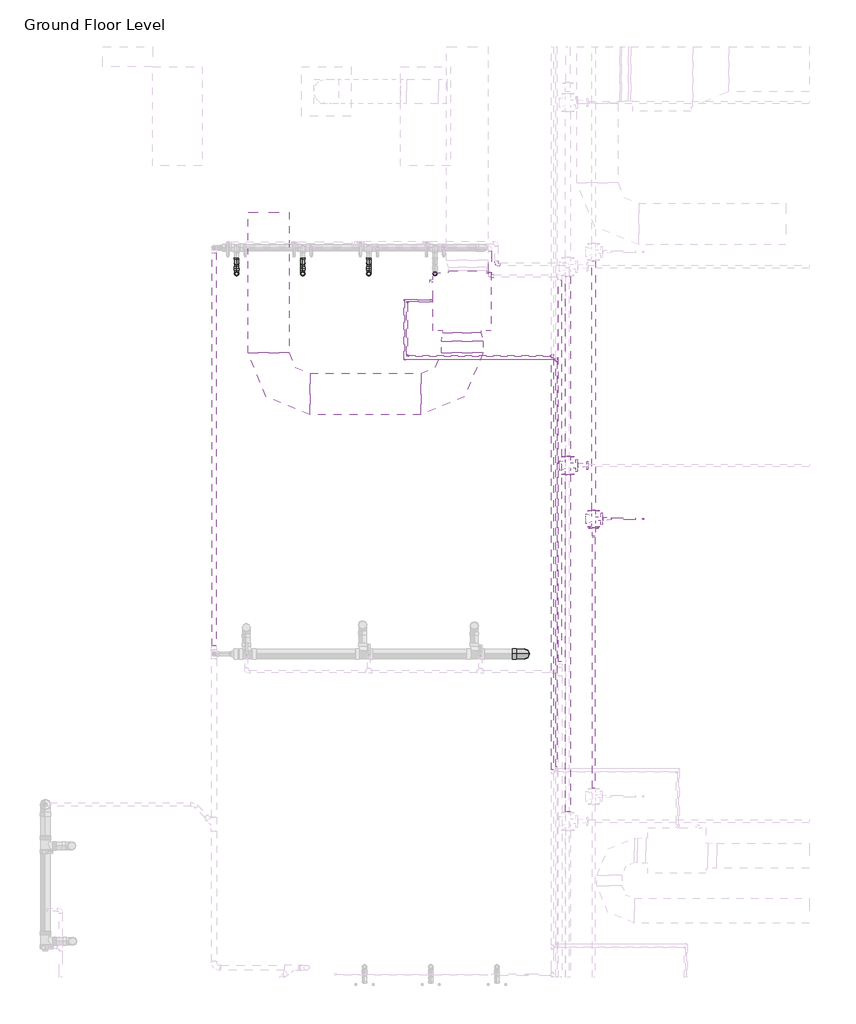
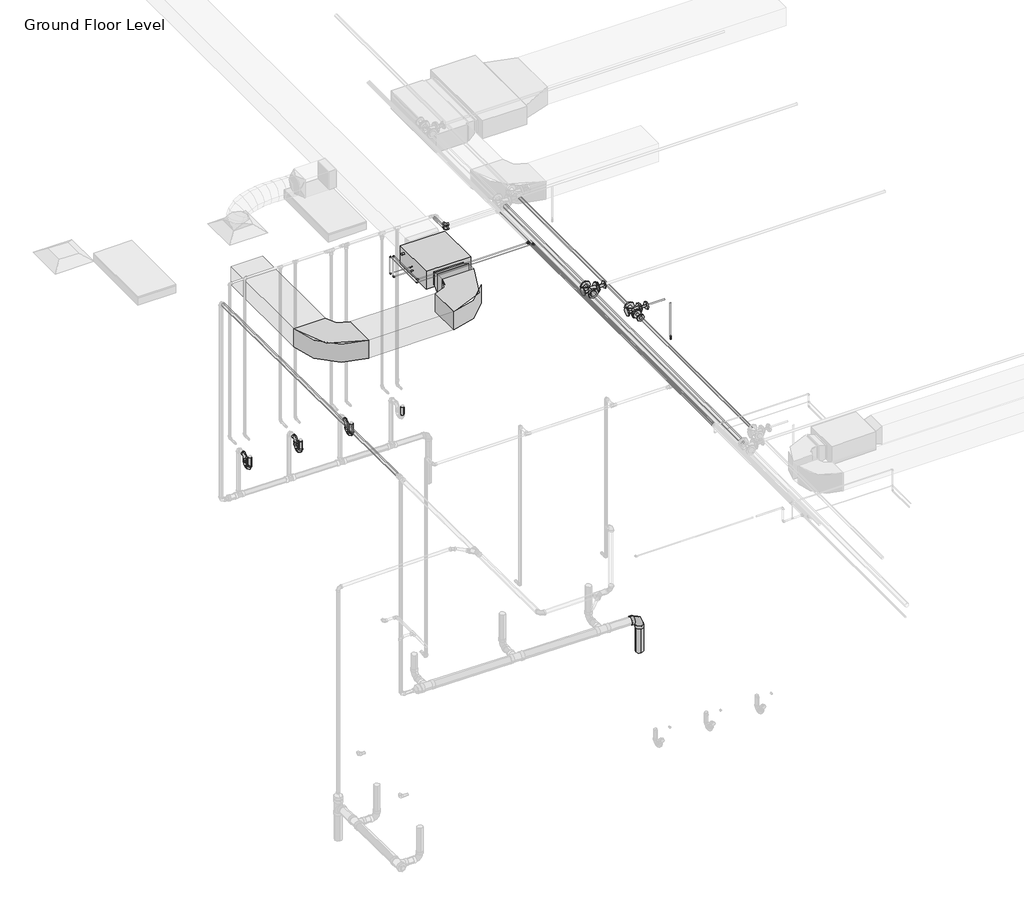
# One storey, part 21 of 74: 30 pipe segments, 27 pipe fittings, 3 duct fittings, 3 duct segments, 1 fire suppression terminal, 1 proxy.
"""IFC4 building model written with IfcOpenShell, lengths in millimetres."""

from ifc_helpers import new_model, si_unit, point, frame, frame_2d, origin, place, context, project, spatial, polyline, circle_curve, trimmed, segment, composite_curve, outline, extrude, transform, mapped, element, save
from components import fcu_daikin_iu_bad131e0, m_rectangular_elbow_radius_1_w_abe20169, m_rectangular_transition_angle_45_degree_f7c2916c, m_sprinkler_pendent_15_mm_pendent_06fcbd8e, m_bend_pvc_sch_40_dwv_standard_aa7efa4c, m_bend_pvc_sch_40_dwv_standard_1e7bdcc1, m_bend_pvc_sch_40_dwv_standard_776e50c4, m_elbow_generic_standard_a088f956, m_elbow_generic_standard_2a704253, m_reducer_flanged_cs_class_150_standard_b6b67c23, m_reducer_flanged_cs_class_150_standard_cc2a7c1d, m_reducer_flanged_cs_class_150_standard_a7631c35, m_tee_generic_standard_5b2ed4d4, m_tee_generic_standard_5078887e, m_tee_round_base_flanged_cs_class_150_standard_dd767e04, m_tee_round_base_flanged_cs_class_150_standard_9c9133d0, m_transition_generic_standard_bdcfe2c1, m_transition_generic_standard_44e35838, standard_517a5a8d

model = new_model("IFC4")

# Units and contexts
model_context = context("Model", 3, world=origin())
ifc_project = project(units=[si_unit("LENGTHUNIT", "METRE", prefix="MILLI")], contexts=[model_context])

# Site, building, storey
site = spatial("IfcSite", under=ifc_project)
building = spatial("IfcBuilding", under=site)
storey = spatial("IfcBuildingStorey", under=building, Name="Ground Floor Level", Elevation=900.0)

# Proxy
placement = place(None, origin())
fcu_daikin_iu_shape = fcu_daikin_iu_bad131e0(model_context)
element("IfcBuildingElementProxy", 1, Name="FCU-DAIKIN IU : 4.5kW, 230V/50Hz/1Ph", ObjectType="FCU-DAIKIN IU : 4.5kW, 230V/50Hz/1Ph", at=placement, inside=storey, context=model_context, shape_type="MappedRepresentation", body=[
    mapped(fcu_daikin_iu_shape, transform((4405.6581832, -24507.2627051, 3934.1054453), x_axis=(-1.0, 0.0, 0.0), y_axis=(0.0, -1.0, 0.0), z_axis=(0.0, 0.0, 1.0))),
])

# Duct fittings
m_rectangular_elbow_radius_1_w_shape = m_rectangular_elbow_radius_1_w_abe20169(model_context)
element("IfcDuctFitting", 2, ObjectType="M_Rectangular Elbow - Radius : 1 W", at=placement, inside=storey, context=model_context, shape_type="MappedRepresentation", body=[
    mapped(m_rectangular_elbow_radius_1_w_shape, transform((4405.6581832, -25622.6440715, 4075.3054453), x_axis=(1.0, 0.0, 0.0), y_axis=(0.0, 1.0, 0.0), z_axis=(0.0, 0.0, 1.0))),
])
element("IfcDuctFitting", 3, ObjectType="M_Rectangular Elbow - Radius : 1 W", at=placement, inside=storey, context=model_context, shape_type="MappedRepresentation", body=[
    mapped(m_rectangular_elbow_radius_1_w_shape, transform((2065.6581888, -25622.6440715, 4075.2875), x_axis=(0.0, -1.0, 0.0), y_axis=(1.0, 0.0, 0.0), z_axis=(0.0, 0.0, 1.0))),
])
m_rectangular_transition_angle_45_degree_shape = m_rectangular_transition_angle_45_degree_f7c2916c(model_context)
element("IfcDuctFitting", 4, ObjectType="M_Rectangular Transition - Angle : 45 Degree", at=placement, inside=storey, context=model_context, shape_type="MappedRepresentation", body=[
    mapped(m_rectangular_transition_angle_45_degree_shape, transform((4405.6581832, -24882.6627051, 4075.3054453), x_axis=(0.0, -1.0, 0.0), y_axis=(1.0, 0.0, 0.0), z_axis=(0.0, 0.0, 1.0))),
])

# Duct segments
element("IfcDuctSegment", 5, ObjectType="Radius Elbows / Taps", at=placement, inside=storey, context=model_context, shape_type="SweptSolid", body=[
    extrude(outline(polyline([(4155.6581832, -24986.1117562), (4655.6581832, -24986.1117562), (4655.6581832, -25122.6440715), (4155.6581832, -25122.6440715), (4155.6581832, -24986.1117562)])), frame((0.0, 0.0, 3925.3054453), z_axis=(0.0, 0.0, 1.0), x_axis=(1.0, 0.0, 0.0)), (0.0, 0.0, 1.0), 300.0),
])
element("IfcDuctSegment", 6, ObjectType="Radius Elbows / Taps", at=placement, inside=storey, context=model_context, shape_type="SweptSolid", body=[
    extrude(outline(polyline([(0.0, -500.0), (0.0, 0.0), (1339.9999945, 0.0), (1339.9999945, -500.0), (0.0, -500.0)])), frame((3905.660192, -25872.6440715, 3925.3054453), z_axis=(-1.3392036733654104e-05, 0.0, 0.9999999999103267), x_axis=(-0.9999999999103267, 0.0, -1.3392036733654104e-05)), (0.0, 0.0, 1.0), 300.0),
])
element("IfcDuctSegment", 7, ObjectType="Radius Elbows / Taps", at=placement, inside=storey, context=model_context, shape_type="SweptSolid", body=[
    extrude(outline(polyline([(2315.6581888, -25122.6440715), (1815.6581888, -25122.6440715), (1815.6581888, -23422.6440715), (2315.6581888, -23422.6440715), (2315.6581888, -25122.6440715)])), frame((0.0, 0.0, 3925.2875), z_axis=(0.0, 0.0, 1.0), x_axis=(1.0, 0.0, 0.0)), (0.0, 0.0, 1.0), 300.0),
])

# Fire suppression terminal
m_sprinkler_pendent_15_mm_pendent_shape = m_sprinkler_pendent_15_mm_pendent_06fcbd8e(model_context)
element("IfcFireSuppressionTerminal", 8, ObjectType="M_Sprinkler - Pendent : 15 mm Pendent", at=placement, inside=storey, context=model_context, shape_type="MappedRepresentation", body=[
    mapped(m_sprinkler_pendent_15_mm_pendent_shape, transform((6592.5481019, -27129.3982359, 3650.0), x_axis=(1.0, 0.0, 0.0), y_axis=(0.0, 1.0, 0.0), z_axis=(0.0, 0.0, 1.0))),
])

# Pipe fittings
m_bend_pvc_sch_40_dwv_standard_shape = m_bend_pvc_sch_40_dwv_standard_aa7efa4c(model_context)
element("IfcPipeFitting", 9, ObjectType="M_Bend - PVC - Sch 40 - DWV : Standard", at=placement, inside=storey, context=model_context, shape_type="MappedRepresentation", body=[
    mapped(m_bend_pvc_sch_40_dwv_standard_shape, transform((5158.4803359, -28761.5689421, 448.4416158), x_axis=(0.9999500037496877, 0.0, -0.00999950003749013), y_axis=(-0.00999950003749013, 0.0, -0.9999500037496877), z_axis=(0.0, 1.0, 0.0))),
])
m_bend_pvc_sch_40_dwv_standard_2_shape = m_bend_pvc_sch_40_dwv_standard_1e7bdcc1(model_context)
element("IfcPipeFitting", 10, ObjectType="M_Bend - PVC - Sch 40 - DWV : Standard", at=placement, inside=storey, context=model_context, shape_type="MappedRepresentation", body=[
    mapped(m_bend_pvc_sch_40_dwv_standard_2_shape, transform((1678.7498, -24168.3528578, 1360.0000049), x_axis=(0.0, 0.0, -1.0), y_axis=(0.0, 1.0, 0.0), z_axis=(1.0, 0.0, 0.0))),
])
element("IfcPipeFitting", 11, ObjectType="M_Bend - PVC - Sch 40 - DWV : Standard", at=placement, inside=storey, context=model_context, shape_type="MappedRepresentation", body=[
    mapped(m_bend_pvc_sch_40_dwv_standard_2_shape, transform((2478.7498, -24168.3528578, 1360.00001), x_axis=(0.0, -0.9999500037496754, 0.009999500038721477), y_axis=(0.0, 0.009999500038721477, 0.9999500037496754), z_axis=(-1.0, 0.0, 0.0))),
])
element("IfcPipeFitting", 12, ObjectType="M_Bend - PVC - Sch 40 - DWV : Standard", at=placement, inside=storey, context=model_context, shape_type="MappedRepresentation", body=[
    mapped(m_bend_pvc_sch_40_dwv_standard_2_shape, transform((3278.7498, -24168.3528578, 1360.0000049), x_axis=(0.0, -0.9999500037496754, 0.009999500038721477), y_axis=(0.0, 0.009999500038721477, 0.9999500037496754), z_axis=(-1.0, 0.0, 0.0))),
])
m_bend_pvc_sch_40_dwv_standard_3_shape = m_bend_pvc_sch_40_dwv_standard_776e50c4(model_context)
element("IfcPipeFitting", 13, ObjectType="M_Bend - PVC - Sch 40 - DWV : Standard", at=placement, inside=storey, context=model_context, shape_type="MappedRepresentation", body=[
    mapped(m_bend_pvc_sch_40_dwv_standard_3_shape, transform((1678.7498, -24038.3523645, 1358.7), x_axis=(0.0, 0.9999500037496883, -0.009999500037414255), y_axis=(0.0, 0.009999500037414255, 0.9999500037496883), z_axis=(1.0, 0.0, 0.0))),
])
element("IfcPipeFitting", 14, ObjectType="M_Bend - PVC - Sch 40 - DWV : Standard", at=placement, inside=storey, context=model_context, shape_type="MappedRepresentation", body=[
    mapped(m_bend_pvc_sch_40_dwv_standard_3_shape, transform((1678.7498, -24038.3523645, 1510.0493267), x_axis=(0.0, 0.0, 1.0), y_axis=(0.0, 1.0, 0.0), z_axis=(-1.0, 0.0, 0.0))),
])
element("IfcPipeFitting", 15, ObjectType="M_Bend - PVC - Sch 40 - DWV : Standard", at=placement, inside=storey, context=model_context, shape_type="MappedRepresentation", body=[
    mapped(m_bend_pvc_sch_40_dwv_standard_3_shape, transform((2478.7498, -24038.3518579, 1358.7), x_axis=(0.0, 0.9999500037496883, -0.009999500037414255), y_axis=(0.0, 0.009999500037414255, 0.9999500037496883), z_axis=(1.0, 0.0, 0.0))),
])
element("IfcPipeFitting", 16, ObjectType="M_Bend - PVC - Sch 40 - DWV : Standard", at=placement, inside=storey, context=model_context, shape_type="MappedRepresentation", body=[
    mapped(m_bend_pvc_sch_40_dwv_standard_3_shape, transform((2478.7498, -24038.3518579, 1510.09999), x_axis=(0.0, 0.0, 1.0), y_axis=(0.0, 1.0, 0.0), z_axis=(-1.0, 0.0, 0.0))),
])
element("IfcPipeFitting", 17, ObjectType="M_Bend - PVC - Sch 40 - DWV : Standard", at=placement, inside=storey, context=model_context, shape_type="MappedRepresentation", body=[
    mapped(m_bend_pvc_sch_40_dwv_standard_3_shape, transform((3278.7498, -24038.3523645, 1358.7), x_axis=(0.0, 0.9999500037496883, -0.009999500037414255), y_axis=(0.0, 0.009999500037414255, 0.9999500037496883), z_axis=(1.0, 0.0, 0.0))),
])
element("IfcPipeFitting", 18, ObjectType="M_Bend - PVC - Sch 40 - DWV : Standard", at=placement, inside=storey, context=model_context, shape_type="MappedRepresentation", body=[
    mapped(m_bend_pvc_sch_40_dwv_standard_3_shape, transform((3278.7498, -24038.3523645, 1510.0493267), x_axis=(0.0, 0.0, 1.0), y_axis=(0.0, 1.0, 0.0), z_axis=(-1.0, 0.0, 0.0))),
])
m_elbow_generic_standard_shape = m_elbow_generic_standard_a088f956(model_context)
element("IfcPipeFitting", 19, ObjectType="M_Elbow - Generic : Standard", at=placement, inside=storey, context=model_context, shape_type="MappedRepresentation", body=[
    mapped(m_elbow_generic_standard_shape, transform((3741.7995393, -24507.2440715, 4034.0875), x_axis=(-1.0, 0.0, 0.0), y_axis=(0.0, 0.0, 1.0), z_axis=(0.0, 1.0, 0.0))),
])
element("IfcPipeFitting", 20, ObjectType="M_Elbow - Generic : Standard", at=placement, inside=storey, context=model_context, shape_type="MappedRepresentation", body=[
    mapped(m_elbow_generic_standard_shape, transform((3741.7995393, -24507.2440715, 4390.0), x_axis=(0.0, 0.0, 1.0), y_axis=(0.0, -1.0, 0.0), z_axis=(1.0, 0.0, 0.0))),
])
element("IfcPipeFitting", 21, ObjectType="M_Elbow - Generic : Standard", at=placement, inside=storey, context=model_context, shape_type="MappedRepresentation", body=[
    mapped(m_elbow_generic_standard_shape, transform((3741.7995393, -25162.0896488, 4390.0), x_axis=(0.0, -1.0, 0.0), y_axis=(1.0, 0.0, 0.0), z_axis=(0.0, 0.0, 1.0))),
])
m_elbow_generic_standard_2_shape = m_elbow_generic_standard_2a704253(model_context)
element("IfcPipeFitting", 22, ObjectType="M_Elbow - Generic : Standard", at=placement, inside=storey, context=model_context, shape_type="MappedRepresentation", body=[
    mapped(m_elbow_generic_standard_2_shape, transform((3705.4496688, -24482.2440715, 4084.8875), x_axis=(-1.0, 0.0, 0.0), y_axis=(0.0, 0.0, 1.0), z_axis=(0.0, 1.0, 0.0))),
])
element("IfcPipeFitting", 23, ObjectType="M_Elbow - Generic : Standard", at=placement, inside=storey, context=model_context, shape_type="MappedRepresentation", body=[
    mapped(m_elbow_generic_standard_2_shape, transform((3705.4496688, -24482.2440715, 4377.5), x_axis=(0.0, 0.0, 1.0), y_axis=(0.0, -1.0, 0.0), z_axis=(1.0, 0.0, 0.0))),
])
element("IfcPipeFitting", 24, ObjectType="M_Elbow - Generic : Standard", at=placement, inside=storey, context=model_context, shape_type="MappedRepresentation", body=[
    mapped(m_elbow_generic_standard_2_shape, transform((3705.4496688, -25206.4899508, 4377.5), x_axis=(0.0, -1.0, 0.0), y_axis=(1.0, 0.0, 0.0), z_axis=(0.0, 0.0, 1.0))),
])
m_reducer_flanged_cs_class_150_standard_shape = m_reducer_flanged_cs_class_150_standard_b6b67c23(model_context)
element("IfcPipeFitting", 25, ObjectType="M_Reducer - Flanged - CS - Class 150 : Standard", at=placement, inside=storey, context=model_context, shape_type="MappedRepresentation", body=[
    mapped(m_reducer_flanged_cs_class_150_standard_shape, transform((5997.057812, -27235.4968297, 4290.0), x_axis=(0.0, -1.0, 0.0), y_axis=(1.0, 0.0, 0.0), z_axis=(0.0, 0.0, 1.0))),
])
m_reducer_flanged_cs_class_150_standard_2_shape = m_reducer_flanged_cs_class_150_standard_cc2a7c1d(model_context)
element("IfcPipeFitting", 26, ObjectType="M_Reducer - Flanged - CS - Class 150 : Standard", at=placement, inside=storey, context=model_context, shape_type="MappedRepresentation", body=[
    mapped(m_reducer_flanged_cs_class_150_standard_2_shape, transform((6103.1564057, -27129.3982359, 4290.0), x_axis=(1.0, 0.0, 0.0), y_axis=(0.0, 0.0, -1.0), z_axis=(0.0, 1.0, 0.0))),
])
m_reducer_flanged_cs_class_150_standard_3_shape = m_reducer_flanged_cs_class_150_standard_a7631c35(model_context)
element("IfcPipeFitting", 27, ObjectType="M_Reducer - Flanged - CS - Class 150 : Standard", at=placement, inside=storey, context=model_context, shape_type="MappedRepresentation", body=[
    mapped(m_reducer_flanged_cs_class_150_standard_3_shape, transform((5798.6174894, -26484.6295433, 4347.5), x_axis=(1.0, 0.0, 0.0), y_axis=(0.0, 0.0, 1.0), z_axis=(0.0, -1.0, 0.0))),
])
m_tee_generic_standard_shape = m_tee_generic_standard_5b2ed4d4(model_context)
element("IfcPipeFitting", 28, ObjectType="M_Tee - Generic : Standard", at=placement, inside=storey, context=model_context, shape_type="MappedRepresentation", body=[
    mapped(m_tee_generic_standard_shape, transform((5543.9904113, -25206.4899508, 4377.5), x_axis=(0.0, -1.0, 0.0), y_axis=(1.0, 0.0, 0.0), z_axis=(0.0, 0.0, 1.0))),
])
m_tee_generic_standard_2_shape = m_tee_generic_standard_5078887e(model_context)
element("IfcPipeFitting", 29, ObjectType="M_Tee - Generic : Standard", at=placement, inside=storey, context=model_context, shape_type="MappedRepresentation", body=[
    mapped(m_tee_generic_standard_2_shape, transform((5497.8951827, -25162.0896488, 4390.0), x_axis=(0.0, -1.0, 0.0), y_axis=(1.0, 0.0, 0.0), z_axis=(0.0, 0.0, 1.0))),
])
m_tee_round_base_flanged_cs_class_150_standard_shape = m_tee_round_base_flanged_cs_class_150_standard_dd767e04(model_context)
element("IfcPipeFitting", 30, ObjectType="M_Tee Round Base - Flanged - CS - Class 150 : Standard", at=placement, inside=storey, context=model_context, shape_type="MappedRepresentation", body=[
    mapped(m_tee_round_base_flanged_cs_class_150_standard_shape, transform((5684.6174894, -26484.6295433, 4347.5), x_axis=(0.0, -1.0, 0.0), y_axis=(-1.0, 0.0, 0.0), z_axis=(0.0, 0.0, -1.0))),
])
m_tee_round_base_flanged_cs_class_150_standard_2_shape = m_tee_round_base_flanged_cs_class_150_standard_9c9133d0(model_context)
element("IfcPipeFitting", 31, ObjectType="M_Tee Round Base - Flanged - CS - Class 150 : Standard", at=placement, inside=storey, context=model_context, shape_type="MappedRepresentation", body=[
    mapped(m_tee_round_base_flanged_cs_class_150_standard_2_shape, transform((5997.057812, -27129.3982359, 4290.0), x_axis=(0.0, 1.0, 0.0), y_axis=(-1.0, 0.0, 0.0), z_axis=(0.0, 0.0, 1.0))),
])
m_transition_generic_standard_shape = m_transition_generic_standard_bdcfe2c1(model_context)
element("IfcPipeFitting", 32, ObjectType="M_Transition - Generic : Standard", at=placement, inside=storey, context=model_context, shape_type="MappedRepresentation", body=[
    mapped(m_transition_generic_standard_shape, transform((5523.3529113, -25206.4899508, 4377.5), x_axis=(-1.0, 0.0, 0.0), y_axis=(0.0, -1.0, 0.0), z_axis=(0.0, 0.0, 1.0))),
])
m_transition_generic_standard_2_shape = m_transition_generic_standard_44e35838(model_context)
element("IfcPipeFitting", 33, ObjectType="M_Transition - Generic : Standard", at=placement, inside=storey, context=model_context, shape_type="MappedRepresentation", body=[
    mapped(m_transition_generic_standard_2_shape, transform((5474.0826827, -25162.0896488, 4390.0), x_axis=(-1.0, 0.0, 0.0), y_axis=(0.0, -1.0, 0.0), z_axis=(0.0, 0.0, 1.0))),
])
standard_shape = standard_517a5a8d(model_context)
element("IfcPipeFitting", 34, ObjectType="M_Elbow - CPVC - Sch 40 : Standard", at=placement, inside=storey, context=model_context, shape_type="MappedRepresentation", body=[
    mapped(standard_shape, transform((4743.0647206, -24195.7825432, 4300.0), x_axis=(0.0, -1.0, 0.0), y_axis=(1.0, 0.0, 0.0), z_axis=(0.0, 0.0, 1.0))),
])
element("IfcPipeFitting", 35, ObjectType="M_Elbow - CPVC - Sch 40 : Standard", at=placement, inside=storey, context=model_context, shape_type="MappedRepresentation", body=[
    mapped(standard_shape, transform((4820.5575802, -24054.921633, 4250.0), x_axis=(0.0, -1.0, 0.0), y_axis=(1.0, 0.0, 0.0), z_axis=(0.0, 0.0, 1.0))),
])

# Pipe segments
element("IfcPipeSegment", 36, ObjectType="CPVC", at=placement, inside=storey, context=model_context, shape_type="SweptSolid", body=[
    extrude(outline(composite_curve([segment(trimmed(circle_curve(frame_2d((4300.0, 4743.0647206)), 16.7005), [point((4300.0, 4726.3642206))], [point((4283.2995, 4743.0647206))], False, "CARTESIAN"), True, "CONTINUOUS"), segment(trimmed(circle_curve(frame_2d((4300.0, 4743.0647206)), 16.7005), [point((4283.2995, 4743.0647206))], [point((4300.0, 4759.7652206))], False, "CARTESIAN"), True, "CONTINUOUS"), segment(trimmed(circle_curve(frame_2d((4300.0, 4743.0647206)), 16.7005), [point((4300.0, 4759.7652206))], [point((4316.7005, 4743.0647206))], False, "CARTESIAN"), True, "CONTINUOUS"), segment(trimmed(circle_curve(frame_2d((4300.0, 4743.0647206)), 16.7005), [point((4316.7005, 4743.0647206))], [point((4300.0, 4726.3642206))], False, "CARTESIAN"), True, "CONTINUOUS")], self_intersect=False)), frame((0.0, -24152.5199932, 0.0), z_axis=(0.0, 1.0, 0.0), x_axis=(0.0, 0.0, 1.0)), (0.0, 0.0, 1.0), 264.4727966),
])
element("IfcPipeSegment", 37, ObjectType="CPVC", at=placement, inside=storey, context=model_context, shape_type="SweptSolid", body=[
    extrude(outline(composite_curve([segment(trimmed(circle_curve(frame_2d((4300.0, 5589.646628)), 16.7005), [point((4300.0, 5572.946128))], [point((4283.2995, 5589.646628))], False, "CARTESIAN"), True, "CONTINUOUS"), segment(trimmed(circle_curve(frame_2d((4300.0, 5589.646628)), 16.7005), [point((4283.2995, 5589.646628))], [point((4300.0, 5606.347128))], False, "CARTESIAN"), True, "CONTINUOUS"), segment(trimmed(circle_curve(frame_2d((4300.0, 5589.646628)), 16.7005), [point((4300.0, 5606.347128))], [point((4316.7005, 5589.646628))], False, "CARTESIAN"), True, "CONTINUOUS"), segment(trimmed(circle_curve(frame_2d((4300.0, 5589.646628)), 16.7005), [point((4316.7005, 5589.646628))], [point((4300.0, 5572.946128))], False, "CARTESIAN"), True, "CONTINUOUS")], self_intersect=False)), frame((0.0, -28854.6907716, 0.0), z_axis=(0.0, 1.0, 0.0), x_axis=(0.0, 0.0, 1.0)), (0.0, 0.0, 1.0), 4615.6456784),
])
element("IfcPipeSegment", 38, ObjectType="Copper", at=placement, inside=storey, context=model_context, shape_type="SweptSolid", body=[
    extrude(outline(composite_curve([segment(trimmed(circle_curve(frame_2d((-25206.4899508, 4377.5)), 3.35), [point((-25209.8399508, 4377.5))], [point((-25206.4899508, 4380.85))], False, "CARTESIAN"), True, "CONTINUOUS"), segment(trimmed(circle_curve(frame_2d((-25206.4899508, 4377.5)), 3.35), [point((-25206.4899508, 4380.85))], [point((-25203.1399508, 4377.5))], False, "CARTESIAN"), True, "CONTINUOUS"), segment(trimmed(circle_curve(frame_2d((-25206.4899508, 4377.5)), 3.35), [point((-25203.1399508, 4377.5))], [point((-25206.4899508, 4374.15))], False, "CARTESIAN"), True, "CONTINUOUS"), segment(trimmed(circle_curve(frame_2d((-25206.4899508, 4377.5)), 3.35), [point((-25206.4899508, 4374.15))], [point((-25209.8399508, 4377.5))], False, "CARTESIAN"), True, "CONTINUOUS")], self_intersect=False)), frame((3716.5871688, 0.0, 0.0), z_axis=(1.0, 0.0, 0.0), x_axis=(0.0, 1.0, 0.0)), (0.0, 0.0, 1.0), 1802.7969926),
])
element("IfcPipeSegment", 39, ObjectType="Copper", at=placement, inside=storey, context=model_context, shape_type="SweptSolid", body=[
    extrude(outline(composite_curve([segment(trimmed(circle_curve(frame_2d((-25162.0896488, 4390.0)), 6.5), [point((-25168.5896488, 4390.0))], [point((-25162.0896488, 4396.5))], False, "CARTESIAN"), True, "CONTINUOUS"), segment(trimmed(circle_curve(frame_2d((-25162.0896488, 4390.0)), 6.5), [point((-25162.0896488, 4396.5))], [point((-25155.5896488, 4390.0))], False, "CARTESIAN"), True, "CONTINUOUS"), segment(trimmed(circle_curve(frame_2d((-25162.0896488, 4390.0)), 6.5), [point((-25155.5896488, 4390.0))], [point((-25162.0896488, 4383.5))], False, "CARTESIAN"), True, "CONTINUOUS"), segment(trimmed(circle_curve(frame_2d((-25162.0896488, 4390.0)), 6.5), [point((-25162.0896488, 4383.5))], [point((-25168.5896488, 4390.0))], False, "CARTESIAN"), True, "CONTINUOUS")], self_intersect=False)), frame((3756.0870393, 0.0, 0.0), z_axis=(1.0, 0.0, 0.0), x_axis=(0.0, 1.0, 0.0)), (0.0, 0.0, 1.0), 1712.4393933),
])
element("IfcPipeSegment", 40, ObjectType="Copper", at=placement, inside=storey, context=model_context, shape_type="SweptSolid", body=[
    extrude(outline(composite_curve([segment(trimmed(circle_curve(frame_2d((4377.5, 3705.4496688)), 3.35), [point((4377.5, 3702.0996688))], [point((4374.15, 3705.4496688))], False, "CARTESIAN"), True, "CONTINUOUS"), segment(trimmed(circle_curve(frame_2d((4377.5, 3705.4496688)), 3.35), [point((4374.15, 3705.4496688))], [point((4377.5, 3708.7996688))], False, "CARTESIAN"), True, "CONTINUOUS"), segment(trimmed(circle_curve(frame_2d((4377.5, 3705.4496688)), 3.35), [point((4377.5, 3708.7996688))], [point((4380.85, 3705.4496688))], False, "CARTESIAN"), True, "CONTINUOUS"), segment(trimmed(circle_curve(frame_2d((4377.5, 3705.4496688)), 3.35), [point((4380.85, 3705.4496688))], [point((4377.5, 3702.0996688))], False, "CARTESIAN"), True, "CONTINUOUS")], self_intersect=False)), frame((0.0, -25195.3524508, 0.0), z_axis=(0.0, 1.0, 0.0), x_axis=(0.0, 0.0, 1.0)), (0.0, 0.0, 1.0), 701.9708793),
])
element("IfcPipeSegment", 41, ObjectType="Copper", at=placement, inside=storey, context=model_context, shape_type="SweptSolid", body=[
    extrude(outline(composite_curve([segment(trimmed(circle_curve(frame_2d((4390.0, 3741.7995393)), 6.5), [point((4390.0, 3735.2995393))], [point((4383.5, 3741.7995393))], False, "CARTESIAN"), True, "CONTINUOUS"), segment(trimmed(circle_curve(frame_2d((4390.0, 3741.7995393)), 6.5), [point((4383.5, 3741.7995393))], [point((4390.0, 3748.2995393))], False, "CARTESIAN"), True, "CONTINUOUS"), segment(trimmed(circle_curve(frame_2d((4390.0, 3741.7995393)), 6.5), [point((4390.0, 3748.2995393))], [point((4396.5, 3741.7995393))], False, "CARTESIAN"), True, "CONTINUOUS"), segment(trimmed(circle_curve(frame_2d((4390.0, 3741.7995393)), 6.5), [point((4396.5, 3741.7995393))], [point((4390.0, 3735.2995393))], False, "CARTESIAN"), True, "CONTINUOUS")], self_intersect=False)), frame((0.0, -25147.8021488, 0.0), z_axis=(0.0, 1.0, 0.0), x_axis=(0.0, 0.0, 1.0)), (0.0, 0.0, 1.0), 626.2705772),
])
element("IfcPipeSegment", 42, ObjectType="Copper", at=placement, inside=storey, context=model_context, shape_type="SweptSolid", body=[
    extrude(outline(composite_curve([segment(trimmed(circle_curve(frame_2d((0.0, -6.5)), 6.5), [point((-6.5, -6.5))], [point((1e-07, 0.0))], False, "CARTESIAN"), True, "CONTINUOUS"), segment(trimmed(circle_curve(frame_2d((0.0, -6.5)), 6.5), [point((1e-07, 0.0))], [point((6.5, -6.5))], False, "CARTESIAN"), True, "CONTINUOUS"), segment(trimmed(circle_curve(frame_2d((0.0, -6.5)), 6.5), [point((6.5, -6.5))], [point((0.0, -13.0))], False, "CARTESIAN"), True, "CONTINUOUS"), segment(trimmed(circle_curve(frame_2d((0.0, -6.5)), 6.5), [point((0.0, -13.0))], [point((-6.5, -6.5))], False, "CARTESIAN"), True, "CONTINUOUS")], self_intersect=False)), frame((3756.0874855, -24507.2440715, 4027.5875), z_axis=(0.9999999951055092, -7.12643563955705e-05, 6.86321587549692e-05), x_axis=(-7.126435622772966e-05, -0.9999999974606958, -4.891026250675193e-09)), (0.0, 0.0, 1.0), 261.4711452),
])
element("IfcPipeSegment", 43, ObjectType="Copper", at=placement, inside=storey, context=model_context, shape_type="SweptSolid", body=[
    extrude(outline(composite_curve([segment(trimmed(circle_curve(frame_2d((0.0, -3.35)), 3.35), [point((-3.35, -3.35))], [point((0.0, 0.0))], False, "CARTESIAN"), True, "CONTINUOUS"), segment(trimmed(circle_curve(frame_2d((0.0, -3.35)), 3.35), [point((0.0, 0.0))], [point((3.35, -3.35))], False, "CARTESIAN"), True, "CONTINUOUS"), segment(trimmed(circle_curve(frame_2d((0.0, -3.35)), 3.35), [point((3.35, -3.35))], [point((0.0, -6.7))], False, "CARTESIAN"), True, "CONTINUOUS"), segment(trimmed(circle_curve(frame_2d((0.0, -3.35)), 3.35), [point((0.0, -6.7))], [point((-3.35, -3.35))], False, "CARTESIAN"), True, "CONTINUOUS")], self_intersect=False)), frame((3716.5873685, -24482.2440715, 4081.5375), z_axis=(0.9999999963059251, -6.191151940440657e-05, 5.962477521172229e-05), x_axis=(-6.191151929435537e-05, -0.999999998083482, -3.691459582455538e-09)), (0.0, 0.0, 1.0), 300.9710156),
])
element("IfcPipeSegment", 44, ObjectType="Copper", at=placement, inside=storey, context=model_context, shape_type="SweptSolid", body=[
    extrude(outline(composite_curve([segment(trimmed(circle_curve(frame_2d((3705.4496688, -24482.2440715)), 3.35), [point((3702.0996688, -24482.2440715))], [point((3705.4496688, -24478.8940715))], False, "CARTESIAN"), True, "CONTINUOUS"), segment(trimmed(circle_curve(frame_2d((3705.4496688, -24482.2440715)), 3.35), [point((3705.4496688, -24478.8940715))], [point((3708.7996688, -24482.2440715))], False, "CARTESIAN"), True, "CONTINUOUS"), segment(trimmed(circle_curve(frame_2d((3705.4496688, -24482.2440715)), 3.35), [point((3708.7996688, -24482.2440715))], [point((3705.4496688, -24485.5940715))], False, "CARTESIAN"), True, "CONTINUOUS"), segment(trimmed(circle_curve(frame_2d((3705.4496688, -24482.2440715)), 3.35), [point((3705.4496688, -24485.5940715))], [point((3702.0996688, -24482.2440715))], False, "CARTESIAN"), True, "CONTINUOUS")], self_intersect=False)), frame((0.0, 0.0, 4096.025), z_axis=(0.0, 0.0, 1.0), x_axis=(1.0, 0.0, 0.0)), (0.0, 0.0, 1.0), 270.3375),
])
element("IfcPipeSegment", 45, ObjectType="Copper", at=placement, inside=storey, context=model_context, shape_type="SweptSolid", body=[
    extrude(outline(composite_curve([segment(trimmed(circle_curve(frame_2d((3741.7995393, -24507.2440715)), 6.5), [point((3735.2995393, -24507.2440715))], [point((3741.7995393, -24500.7440715))], False, "CARTESIAN"), True, "CONTINUOUS"), segment(trimmed(circle_curve(frame_2d((3741.7995393, -24507.2440715)), 6.5), [point((3741.7995393, -24500.7440715))], [point((3748.2995393, -24507.2440715))], False, "CARTESIAN"), True, "CONTINUOUS"), segment(trimmed(circle_curve(frame_2d((3741.7995393, -24507.2440715)), 6.5), [point((3748.2995393, -24507.2440715))], [point((3741.7995393, -24513.7440715))], False, "CARTESIAN"), True, "CONTINUOUS"), segment(trimmed(circle_curve(frame_2d((3741.7995393, -24507.2440715)), 6.5), [point((3741.7995393, -24513.7440715))], [point((3735.2995393, -24507.2440715))], False, "CARTESIAN"), True, "CONTINUOUS")], self_intersect=False)), frame((0.0, 0.0, 4048.375), z_axis=(0.0, 0.0, 1.0), x_axis=(1.0, 0.0, 0.0)), (0.0, 0.0, 1.0), 327.3375),
])
element("IfcPipeSegment", 46, ObjectType="Copper", at=placement, inside=storey, context=model_context, shape_type="SweptSolid", body=[
    extrude(outline(composite_curve([segment(trimmed(circle_curve(frame_2d((4377.5, 5543.9904113)), 6.5), [point((4377.5, 5550.4904113))], [point((4384.0, 5543.9904113))], False, "CARTESIAN"), True, "CONTINUOUS"), segment(trimmed(circle_curve(frame_2d((4377.5, 5543.9904113)), 6.5), [point((4384.0, 5543.9904113))], [point((4377.5, 5537.4904113))], False, "CARTESIAN"), True, "CONTINUOUS"), segment(trimmed(circle_curve(frame_2d((4377.5, 5543.9904113)), 6.5), [point((4377.5, 5537.4904113))], [point((4371.0, 5543.9904113))], False, "CARTESIAN"), True, "CONTINUOUS"), segment(trimmed(circle_curve(frame_2d((4377.5, 5543.9904113)), 6.5), [point((4371.0, 5543.9904113))], [point((4377.5, 5550.4904113))], False, "CARTESIAN"), True, "CONTINUOUS")], self_intersect=False)), frame((0.0, -30124.2941538, 0.0), z_axis=(0.0, 1.0, 0.0), x_axis=(0.0, 0.0, 1.0)), (0.0, 0.0, 1.0), 4897.166703),
])
element("IfcPipeSegment", 47, ObjectType="Copper", at=placement, inside=storey, context=model_context, shape_type="SweptSolid", body=[
    extrude(outline(composite_curve([segment(trimmed(circle_curve(frame_2d((4390.0, 5497.8951827)), 9.75), [point((4390.0, 5507.6451827))], [point((4399.75, 5497.8951827))], False, "CARTESIAN"), True, "CONTINUOUS"), segment(trimmed(circle_curve(frame_2d((4390.0, 5497.8951827)), 9.75), [point((4399.75, 5497.8951827))], [point((4390.0, 5488.1451827))], False, "CARTESIAN"), True, "CONTINUOUS"), segment(trimmed(circle_curve(frame_2d((4390.0, 5497.8951827)), 9.75), [point((4390.0, 5488.1451827))], [point((4380.25, 5497.8951827))], False, "CARTESIAN"), True, "CONTINUOUS"), segment(trimmed(circle_curve(frame_2d((4390.0, 5497.8951827)), 9.75), [point((4380.25, 5497.8951827))], [point((4390.0, 5507.6451827))], False, "CARTESIAN"), True, "CONTINUOUS")], self_intersect=False)), frame((0.0, -30163.6388653, 0.0), z_axis=(0.0, 1.0, 0.0), x_axis=(0.0, 0.0, 1.0)), (0.0, 0.0, 1.0), 4977.7367166),
])
element("IfcPipeSegment", 48, ObjectType="PVC - DWV", at=placement, inside=storey, context=model_context, shape_type="SweptSolid", body=[
    extrude(outline(composite_curve([segment(trimmed(circle_curve(frame_2d((1678.7498, -24168.3528578)), 24.13), [point((1702.8798, -24168.3528578))], [point((1678.7498, -24192.4828578))], False, "CARTESIAN"), True, "CONTINUOUS"), segment(trimmed(circle_curve(frame_2d((1678.7498, -24168.3528578)), 24.13), [point((1678.7498, -24192.4828578))], [point((1654.6198, -24168.3528578))], False, "CARTESIAN"), True, "CONTINUOUS"), segment(trimmed(circle_curve(frame_2d((1678.7498, -24168.3528578)), 24.13), [point((1654.6198, -24168.3528578))], [point((1678.7498, -24144.2228578))], False, "CARTESIAN"), True, "CONTINUOUS"), segment(trimmed(circle_curve(frame_2d((1678.7498, -24168.3528578)), 24.13), [point((1678.7498, -24144.2228578))], [point((1702.8798, -24168.3528578))], False, "CARTESIAN"), True, "CONTINUOUS")], self_intersect=False)), frame((0.0, 0.0, 1421.8998049), z_axis=(0.0, 0.0, 1.0), x_axis=(1.0, 0.0, 0.0)), (0.0, 0.0, 1.0), 128.1001951),
])
element("IfcPipeSegment", 49, ObjectType="PVC - DWV", at=placement, inside=storey, context=model_context, shape_type="SweptSolid", body=[
    extrude(outline(composite_curve([segment(trimmed(circle_curve(frame_2d((0.0, -24.1299999)), 24.13), [point((24.13, -24.1299999))], [point((0.0, -48.2599999))], False, "CARTESIAN"), True, "CONTINUOUS"), segment(trimmed(circle_curve(frame_2d((0.0, -24.1299999)), 24.13), [point((0.0, -48.2599999))], [point((-24.13, -24.1299999))], False, "CARTESIAN"), True, "CONTINUOUS"), segment(trimmed(circle_curve(frame_2d((0.0, -24.1299999)), 24.13), [point((-24.13, -24.1299999))], [point((0.0, 0.0))], False, "CARTESIAN"), True, "CONTINUOUS"), segment(trimmed(circle_curve(frame_2d((0.0, -24.1299999)), 24.13), [point((0.0, 0.0))], [point((24.13, -24.1299999))], False, "CARTESIAN"), True, "CONTINUOUS")], self_intersect=False)), frame((1678.7498, -24100.0077818, 1383.4477606), z_axis=(0.0, -0.9999500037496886, 0.0099995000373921), x_axis=(1.0, 0.0, 0.0)), (0.0, 0.0, 1.0), 6.2073931),
])
element("IfcPipeSegment", 50, ObjectType="PVC - DWV", at=placement, inside=storey, context=model_context, shape_type="SweptSolid", body=[
    extrude(outline(composite_curve([segment(trimmed(circle_curve(frame_2d((1678.7498, -24038.3523645)), 24.13), [point((1654.6198, -24038.3523645))], [point((1678.7498, -24014.2223645))], False, "CARTESIAN"), True, "CONTINUOUS"), segment(trimmed(circle_curve(frame_2d((1678.7498, -24038.3523645)), 24.13), [point((1678.7498, -24014.2223645))], [point((1702.8798, -24038.3523645))], False, "CARTESIAN"), True, "CONTINUOUS"), segment(trimmed(circle_curve(frame_2d((1678.7498, -24038.3523645)), 24.13), [point((1702.8798, -24038.3523645))], [point((1678.7498, -24062.4823645))], False, "CARTESIAN"), True, "CONTINUOUS"), segment(trimmed(circle_curve(frame_2d((1678.7498, -24038.3523645)), 24.13), [point((1678.7498, -24062.4823645))], [point((1654.6198, -24038.3523645))], False, "CARTESIAN"), True, "CONTINUOUS")], self_intersect=False)), frame((0.0, 0.0, 1420.5998), z_axis=(0.0, 0.0, 1.0), x_axis=(1.0, 0.0, 0.0)), (0.0, 0.0, 1.0), 27.5497267),
])
element("IfcPipeSegment", 51, ObjectType="PVC - DWV", at=placement, inside=storey, context=model_context, shape_type="SweptSolid", body=[
    extrude(outline(composite_curve([segment(trimmed(circle_curve(frame_2d((2478.7498, -24168.3528578)), 24.13), [point((2454.6198, -24168.3528578))], [point((2478.7498, -24144.2228578))], False, "CARTESIAN"), True, "CONTINUOUS"), segment(trimmed(circle_curve(frame_2d((2478.7498, -24168.3528578)), 24.13), [point((2478.7498, -24144.2228578))], [point((2502.8798, -24168.3528578))], False, "CARTESIAN"), True, "CONTINUOUS"), segment(trimmed(circle_curve(frame_2d((2478.7498, -24168.3528578)), 24.13), [point((2502.8798, -24168.3528578))], [point((2478.7498, -24192.4828578))], False, "CARTESIAN"), True, "CONTINUOUS"), segment(trimmed(circle_curve(frame_2d((2478.7498, -24168.3528578)), 24.13), [point((2478.7498, -24192.4828578))], [point((2454.6198, -24168.3528578))], False, "CARTESIAN"), True, "CONTINUOUS")], self_intersect=False)), frame((0.0, 0.0, 1421.89981), z_axis=(0.0, 0.0, 1.0), x_axis=(1.0, 0.0, 0.0)), (0.0, 0.0, 1.0), 128.10019),
])
element("IfcPipeSegment", 52, ObjectType="PVC - DWV", at=placement, inside=storey, context=model_context, shape_type="SweptSolid", body=[
    extrude(outline(composite_curve([segment(trimmed(circle_curve(frame_2d((0.0, -24.1299999)), 24.13), [point((24.13, -24.1299999))], [point((0.0, -48.2599999))], False, "CARTESIAN"), True, "CONTINUOUS"), segment(trimmed(circle_curve(frame_2d((0.0, -24.1299999)), 24.13), [point((0.0, -48.2599999))], [point((-24.13, -24.1299999))], False, "CARTESIAN"), True, "CONTINUOUS"), segment(trimmed(circle_curve(frame_2d((0.0, -24.1299999)), 24.13), [point((-24.13, -24.1299999))], [point((0.0, 0.0))], False, "CARTESIAN"), True, "CONTINUOUS"), segment(trimmed(circle_curve(frame_2d((0.0, -24.1299999)), 24.13), [point((0.0, 0.0))], [point((24.13, -24.1299999))], False, "CARTESIAN"), True, "CONTINUOUS")], self_intersect=False)), frame((2478.7498, -24100.0072752, 1383.4477606), z_axis=(0.0, -0.9999500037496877, 0.009999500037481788), x_axis=(1.0, 0.0, 0.0)), (0.0, 0.0, 1.0), 6.2078998),
])
element("IfcPipeSegment", 53, ObjectType="PVC - DWV", at=placement, inside=storey, context=model_context, shape_type="SweptSolid", body=[
    extrude(outline(composite_curve([segment(trimmed(circle_curve(frame_2d((2478.7498, -24038.3518579)), 24.13), [point((2454.6198, -24038.3518579))], [point((2478.7498, -24014.2218579))], False, "CARTESIAN"), True, "CONTINUOUS"), segment(trimmed(circle_curve(frame_2d((2478.7498, -24038.3518579)), 24.13), [point((2478.7498, -24014.2218579))], [point((2502.8798, -24038.3518579))], False, "CARTESIAN"), True, "CONTINUOUS"), segment(trimmed(circle_curve(frame_2d((2478.7498, -24038.3518579)), 24.13), [point((2502.8798, -24038.3518579))], [point((2478.7498, -24062.4818579))], False, "CARTESIAN"), True, "CONTINUOUS"), segment(trimmed(circle_curve(frame_2d((2478.7498, -24038.3518579)), 24.13), [point((2478.7498, -24062.4818579))], [point((2454.6198, -24038.3518579))], False, "CARTESIAN"), True, "CONTINUOUS")], self_intersect=False)), frame((0.0, 0.0, 1420.5998), z_axis=(0.0, 0.0, 1.0), x_axis=(1.0, 0.0, 0.0)), (0.0, 0.0, 1.0), 27.60039),
])
element("IfcPipeSegment", 54, ObjectType="PVC - DWV", at=placement, inside=storey, context=model_context, shape_type="SweptSolid", body=[
    extrude(outline(composite_curve([segment(trimmed(circle_curve(frame_2d((3278.7498, -24168.3528578)), 24.13), [point((3254.6198, -24168.3528578))], [point((3278.7498, -24144.2228578))], False, "CARTESIAN"), True, "CONTINUOUS"), segment(trimmed(circle_curve(frame_2d((3278.7498, -24168.3528578)), 24.13), [point((3278.7498, -24144.2228578))], [point((3302.8798, -24168.3528578))], False, "CARTESIAN"), True, "CONTINUOUS"), segment(trimmed(circle_curve(frame_2d((3278.7498, -24168.3528578)), 24.13), [point((3302.8798, -24168.3528578))], [point((3278.7498, -24192.4828578))], False, "CARTESIAN"), True, "CONTINUOUS"), segment(trimmed(circle_curve(frame_2d((3278.7498, -24168.3528578)), 24.13), [point((3278.7498, -24192.4828578))], [point((3254.6198, -24168.3528578))], False, "CARTESIAN"), True, "CONTINUOUS")], self_intersect=False)), frame((0.0, 0.0, 1421.8998049), z_axis=(0.0, 0.0, 1.0), x_axis=(1.0, 0.0, 0.0)), (0.0, 0.0, 1.0), 128.1001951),
])
element("IfcPipeSegment", 55, ObjectType="PVC - DWV", at=placement, inside=storey, context=model_context, shape_type="SweptSolid", body=[
    extrude(outline(composite_curve([segment(trimmed(circle_curve(frame_2d((0.0, -24.1299999)), 24.13), [point((24.13, -24.1299999))], [point((0.0, -48.2599999))], False, "CARTESIAN"), True, "CONTINUOUS"), segment(trimmed(circle_curve(frame_2d((0.0, -24.1299999)), 24.13), [point((0.0, -48.2599999))], [point((-24.13, -24.1299999))], False, "CARTESIAN"), True, "CONTINUOUS"), segment(trimmed(circle_curve(frame_2d((0.0, -24.1299999)), 24.13), [point((-24.13, -24.1299999))], [point((0.0, 0.0))], False, "CARTESIAN"), True, "CONTINUOUS"), segment(trimmed(circle_curve(frame_2d((0.0, -24.1299999)), 24.13), [point((0.0, 0.0))], [point((24.13, -24.1299999))], False, "CARTESIAN"), True, "CONTINUOUS")], self_intersect=False)), frame((3278.7498, -24100.0077818, 1383.4477606), z_axis=(0.0, -0.9999500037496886, 0.009999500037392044), x_axis=(1.0, 0.0, 0.0)), (0.0, 0.0, 1.0), 6.2073931),
])
element("IfcPipeSegment", 56, ObjectType="PVC - DWV", at=placement, inside=storey, context=model_context, shape_type="SweptSolid", body=[
    extrude(outline(composite_curve([segment(trimmed(circle_curve(frame_2d((3278.7498, -24038.3523645)), 24.13), [point((3254.6198, -24038.3523645))], [point((3278.7498, -24014.2223645))], False, "CARTESIAN"), True, "CONTINUOUS"), segment(trimmed(circle_curve(frame_2d((3278.7498, -24038.3523645)), 24.13), [point((3278.7498, -24014.2223645))], [point((3302.8798, -24038.3523645))], False, "CARTESIAN"), True, "CONTINUOUS"), segment(trimmed(circle_curve(frame_2d((3278.7498, -24038.3523645)), 24.13), [point((3302.8798, -24038.3523645))], [point((3278.7498, -24062.4823645))], False, "CARTESIAN"), True, "CONTINUOUS"), segment(trimmed(circle_curve(frame_2d((3278.7498, -24038.3523645)), 24.13), [point((3278.7498, -24062.4823645))], [point((3254.6198, -24038.3523645))], False, "CARTESIAN"), True, "CONTINUOUS")], self_intersect=False)), frame((0.0, 0.0, 1420.5998), z_axis=(0.0, 0.0, 1.0), x_axis=(1.0, 0.0, 0.0)), (0.0, 0.0, 1.0), 27.5497267),
])
element("IfcPipeSegment", 57, ObjectType="PVC - DWV", at=placement, inside=storey, context=model_context, shape_type="SweptSolid", body=[
    extrude(outline(composite_curve([segment(trimmed(circle_curve(frame_2d((4078.7498, -24168.3528578)), 24.13), [point((4054.6198, -24168.3528578))], [point((4078.7498, -24144.2228578))], False, "CARTESIAN"), True, "CONTINUOUS"), segment(trimmed(circle_curve(frame_2d((4078.7498, -24168.3528578)), 24.13), [point((4078.7498, -24144.2228578))], [point((4102.8798, -24168.3528578))], False, "CARTESIAN"), True, "CONTINUOUS"), segment(trimmed(circle_curve(frame_2d((4078.7498, -24168.3528578)), 24.13), [point((4102.8798, -24168.3528578))], [point((4078.7498, -24192.4828578))], False, "CARTESIAN"), True, "CONTINUOUS"), segment(trimmed(circle_curve(frame_2d((4078.7498, -24168.3528578)), 24.13), [point((4078.7498, -24192.4828578))], [point((4054.6198, -24168.3528578))], False, "CARTESIAN"), True, "CONTINUOUS")], self_intersect=False)), frame((0.0, 0.0, 1421.89981), z_axis=(0.0, 0.0, 1.0), x_axis=(1.0, 0.0, 0.0)), (0.0, 0.0, 1.0), 128.10019),
])
element("IfcPipeSegment", 58, ObjectType="PVC - DWV", at=placement, inside=storey, context=model_context, shape_type="SweptSolid", body=[
    extrude(outline(composite_curve([segment(trimmed(circle_curve(frame_2d((0.0, -57.15)), 57.15), [point((-57.15, -57.15))], [point((0.0, 0.0))], False, "CARTESIAN"), True, "CONTINUOUS"), segment(trimmed(circle_curve(frame_2d((0.0, -57.15)), 57.15), [point((0.0, 0.0))], [point((57.15, -57.15))], False, "CARTESIAN"), True, "CONTINUOUS"), segment(trimmed(circle_curve(frame_2d((0.0, -57.15)), 57.15), [point((57.15, -57.15))], [point((0.0, -114.3))], False, "CARTESIAN"), True, "CONTINUOUS"), segment(trimmed(circle_curve(frame_2d((0.0, -57.15)), 57.15), [point((0.0, -114.3))], [point((-57.15, -57.15))], False, "CARTESIAN"), True, "CONTINUOUS")], self_intersect=False)), frame((5158.4418398, -28818.7189421, -100.0), z_axis=(9.491942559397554e-05, 0.0, 0.9999999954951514), x_axis=(-0.9999999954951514, 0.0, 9.491942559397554e-05)), (0.0, 0.0, 1.0), 405.5666177),
])
element("IfcPipeSegment", 59, ObjectType="PVC - DWV", at=placement, inside=storey, context=model_context, shape_type="SweptSolid", body=[
    extrude(outline(composite_curve([segment(trimmed(circle_curve(frame_2d((0.0, 24.13)), 24.13), [point((-24.13, 24.13))], [point((0.0, 48.2599999))], False, "CARTESIAN"), True, "CONTINUOUS"), segment(trimmed(circle_curve(frame_2d((0.0, 24.13)), 24.13), [point((0.0, 48.2599999))], [point((24.13, 24.13))], False, "CARTESIAN"), True, "CONTINUOUS"), segment(trimmed(circle_curve(frame_2d((0.0, 24.13)), 24.13), [point((24.13, 24.13))], [point((0.0, 0.0))], False, "CARTESIAN"), True, "CONTINUOUS"), segment(trimmed(circle_curve(frame_2d((0.0, 24.13)), 24.13), [point((0.0, 0.0))], [point((-24.13, 24.13))], False, "CARTESIAN"), True, "CONTINUOUS")], self_intersect=False)), frame((1404.8829692, -23916.4515084, 4014.4188166), z_axis=(0.0, -0.9999500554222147, 0.009994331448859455), x_axis=(1.0, 0.0, 0.0)), (0.0, 0.0, 1.0), 4748.0987004),
])
element("IfcPipeSegment", 60, ObjectType="Steel flanged", at=placement, inside=storey, context=model_context, shape_type="SweptSolid", body=[
    extrude(outline(composite_curve([segment(trimmed(circle_curve(frame_2d((6592.5481019, -27129.3982359)), 10.668), [point((6581.8801019, -27129.3982359))], [point((6592.5481019, -27118.7302359))], False, "CARTESIAN"), True, "CONTINUOUS"), segment(trimmed(circle_curve(frame_2d((6592.5481019, -27129.3982359)), 10.668), [point((6592.5481019, -27118.7302359))], [point((6603.2161019, -27129.3982359))], False, "CARTESIAN"), True, "CONTINUOUS"), segment(trimmed(circle_curve(frame_2d((6592.5481019, -27129.3982359)), 10.668), [point((6603.2161019, -27129.3982359))], [point((6592.5481019, -27140.0662359))], False, "CARTESIAN"), True, "CONTINUOUS"), segment(trimmed(circle_curve(frame_2d((6592.5481019, -27129.3982359)), 10.668), [point((6592.5481019, -27140.0662359))], [point((6581.8801019, -27129.3982359))], False, "CARTESIAN"), True, "CONTINUOUS")], self_intersect=False)), frame((0.0, 0.0, 3650.0), z_axis=(0.0, 0.0, 1.0), x_axis=(1.0, 0.0, 0.0)), (0.0, 0.0, 1.0), 546.9914062),
])
element("IfcPipeSegment", 61, ObjectType="Steel flanged", at=placement, inside=storey, context=model_context, shape_type="SweptSolid", body=[
    extrude(outline(composite_curve([segment(trimmed(circle_curve(frame_2d((-27129.3982359, 4290.0)), 10.668), [point((-27118.7302359, 4290.0))], [point((-27129.3982359, 4279.332))], False, "CARTESIAN"), True, "CONTINUOUS"), segment(trimmed(circle_curve(frame_2d((-27129.3982359, 4290.0)), 10.668), [point((-27129.3982359, 4279.332))], [point((-27140.0662359, 4290.0))], False, "CARTESIAN"), True, "CONTINUOUS"), segment(trimmed(circle_curve(frame_2d((-27129.3982359, 4290.0)), 10.668), [point((-27140.0662359, 4290.0))], [point((-27129.3982359, 4300.668))], False, "CARTESIAN"), True, "CONTINUOUS"), segment(trimmed(circle_curve(frame_2d((-27129.3982359, 4290.0)), 10.668), [point((-27129.3982359, 4300.668))], [point((-27118.7302359, 4290.0))], False, "CARTESIAN"), True, "CONTINUOUS")], self_intersect=False)), frame((6217.1564057, 0.0, 0.0), z_axis=(1.0, 0.0, 0.0), x_axis=(0.0, 1.0, 0.0)), (0.0, 0.0, 1.0), 282.3831025),
])
element("IfcPipeSegment", 62, ObjectType="Steel flanged", at=placement, inside=storey, context=model_context, shape_type="SweptSolid", body=[
    extrude(outline(composite_curve([segment(trimmed(circle_curve(frame_2d((4290.0, 5997.057812)), 21.082), [point((4290.0, 5975.975812))], [point((4268.918, 5997.057812))], False, "CARTESIAN"), True, "CONTINUOUS"), segment(trimmed(circle_curve(frame_2d((4290.0, 5997.057812)), 21.082), [point((4268.918, 5997.057812))], [point((4290.0, 6018.139812))], False, "CARTESIAN"), True, "CONTINUOUS"), segment(trimmed(circle_curve(frame_2d((4290.0, 5997.057812)), 21.082), [point((4290.0, 6018.139812))], [point((4311.082, 5997.057812))], False, "CARTESIAN"), True, "CONTINUOUS"), segment(trimmed(circle_curve(frame_2d((4290.0, 5997.057812)), 21.082), [point((4311.082, 5997.057812))], [point((4290.0, 5975.975812))], False, "CARTESIAN"), True, "CONTINUOUS")], self_intersect=False)), frame((0.0, -27023.2996422, 0.0), z_axis=(0.0, 1.0, 0.0), x_axis=(0.0, 0.0, 1.0)), (0.0, 0.0, 1.0), 3013.5231135),
])
element("IfcPipeSegment", 63, ObjectType="Steel flanged", at=placement, inside=storey, context=model_context, shape_type="SweptSolid", body=[
    extrude(outline(composite_curve([segment(trimmed(circle_curve(frame_2d((4290.0, 5997.057812)), 16.7005), [point((4290.0, 5980.357312))], [point((4273.2995, 5997.057812))], False, "CARTESIAN"), True, "CONTINUOUS"), segment(trimmed(circle_curve(frame_2d((4290.0, 5997.057812)), 16.7005), [point((4273.2995, 5997.057812))], [point((4290.0, 6013.758312))], False, "CARTESIAN"), True, "CONTINUOUS"), segment(trimmed(circle_curve(frame_2d((4290.0, 5997.057812)), 16.7005), [point((4290.0, 6013.758312))], [point((4306.7005, 5997.057812))], False, "CARTESIAN"), True, "CONTINUOUS"), segment(trimmed(circle_curve(frame_2d((4290.0, 5997.057812)), 16.7005), [point((4306.7005, 5997.057812))], [point((4290.0, 5980.357312))], False, "CARTESIAN"), True, "CONTINUOUS")], self_intersect=False)), frame((0.0, -30382.3656461, 0.0), z_axis=(0.0, 1.0, 0.0), x_axis=(0.0, 0.0, 1.0)), (0.0, 0.0, 1.0), 3032.8688165),
])
element("IfcPipeSegment", 64, ObjectType="Steel flanged", at=placement, inside=storey, context=model_context, shape_type="SweptSolid", body=[
    extrude(outline(composite_curve([segment(trimmed(circle_curve(frame_2d((4347.5, 5684.6174894)), 30.1625), [point((4347.5, 5714.7799894))], [point((4377.6625, 5684.6174894))], False, "CARTESIAN"), True, "CONTINUOUS"), segment(trimmed(circle_curve(frame_2d((4347.5, 5684.6174894)), 30.1625), [point((4377.6625, 5684.6174894))], [point((4347.5, 5654.4549894))], False, "CARTESIAN"), True, "CONTINUOUS"), segment(trimmed(circle_curve(frame_2d((4347.5, 5684.6174894)), 30.1625), [point((4347.5, 5654.4549894))], [point((4317.3375, 5684.6174894))], False, "CARTESIAN"), True, "CONTINUOUS"), segment(trimmed(circle_curve(frame_2d((4347.5, 5684.6174894)), 30.1625), [point((4317.3375, 5684.6174894))], [point((4347.5, 5714.7799894))], False, "CARTESIAN"), True, "CONTINUOUS")], self_intersect=False)), frame((0.0, -30671.1783804, 0.0), z_axis=(0.0, 1.0, 0.0), x_axis=(0.0, 0.0, 1.0)), (0.0, 0.0, 1.0), 4072.5488372),
])
element("IfcPipeSegment", 65, ObjectType="Steel flanged", at=placement, inside=storey, context=model_context, shape_type="SweptSolid", body=[
    extrude(outline(composite_curve([segment(trimmed(circle_curve(frame_2d((4347.5, 5684.6174894)), 30.1625), [point((4347.5, 5714.7799894))], [point((4377.6625, 5684.6174894))], False, "CARTESIAN"), True, "CONTINUOUS"), segment(trimmed(circle_curve(frame_2d((4347.5, 5684.6174894)), 30.1625), [point((4377.6625, 5684.6174894))], [point((4347.5, 5654.4549894))], False, "CARTESIAN"), True, "CONTINUOUS"), segment(trimmed(circle_curve(frame_2d((4347.5, 5684.6174894)), 30.1625), [point((4347.5, 5654.4549894))], [point((4317.3375, 5684.6174894))], False, "CARTESIAN"), True, "CONTINUOUS"), segment(trimmed(circle_curve(frame_2d((4347.5, 5684.6174894)), 30.1625), [point((4317.3375, 5684.6174894))], [point((4347.5, 5714.7799894))], False, "CARTESIAN"), True, "CONTINUOUS")], self_intersect=False)), frame((0.0, -26370.6295433, 0.0), z_axis=(0.0, 1.0, 0.0), x_axis=(0.0, 0.0, 1.0)), (0.0, 0.0, 1.0), 2172.9516084),
])

save(model, "model.ifc")
